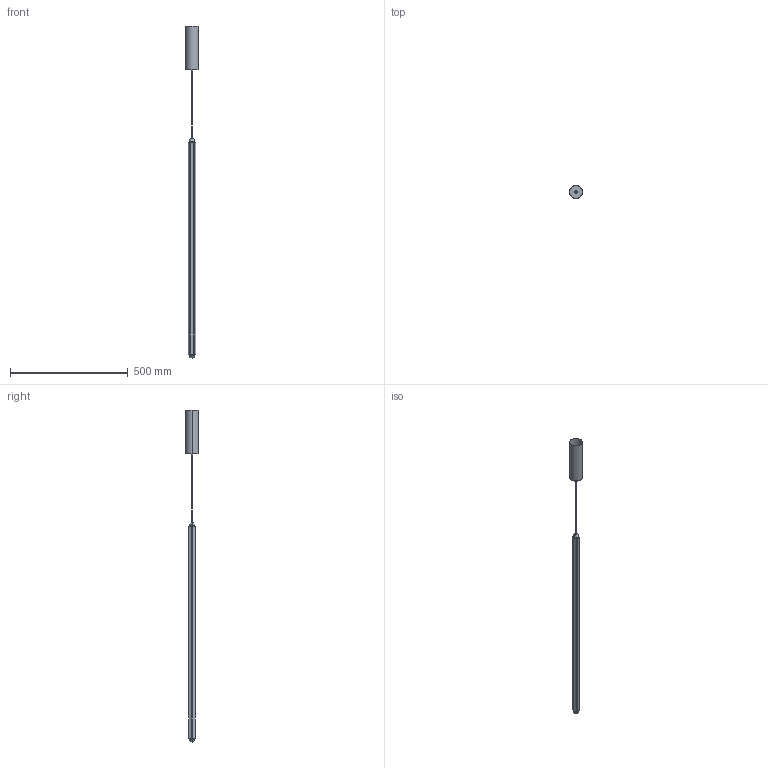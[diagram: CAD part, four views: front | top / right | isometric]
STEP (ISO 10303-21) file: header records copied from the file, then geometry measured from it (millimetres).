
FILE_DESCRIPTION(/* description */ (''),/* implementation_level */ '2;1');
FILE_NAME(/* name */ '64662-211D',/* time_stamp */ '2026-05-25T11:48:44+02:00',/* author */ (''),/* organization */ (''),/* preprocessor_version */ 'ST-DEVELOPER v19.2',/* originating_system */ 'Rhino 8.30',/* authorisation */ '');
FILE_SCHEMA (('CONFIG_CONTROL_DESIGN'));
Length unit declared in the file: millimetre
Products named in the file (1): Document
Bounding box: 55 x 55 x 1411.75 mm (x, y, z)
Volume: 371194.4 mm3; surface area: 218752.6 mm2
Topology: 5 solids, 5 shells, 93 faces, 246 edges, 156 vertices
Faces by surface type: cylinder 55, plane 34, bspline 4
Entity records: 3649 total; most frequent: CARTESIAN_POINT 1468, ORIENTED_EDGE 484, DIRECTION 291, EDGE_CURVE 242, AXIS2_PLACEMENT_3D 190, VERTEX_POINT 156, B_SPLINE_CURVE_WITH_KNOTS 136, EDGE_LOOP 104
